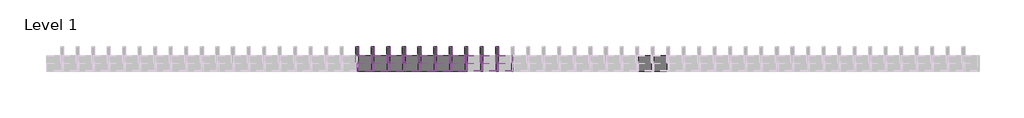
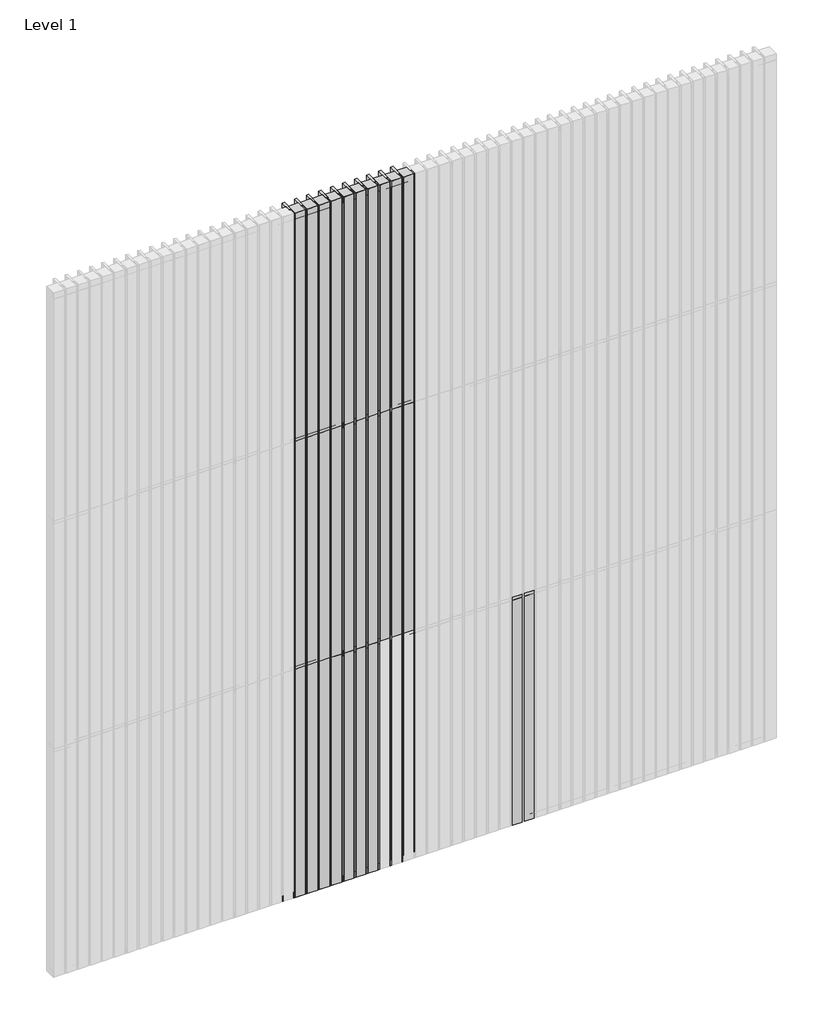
# One storey, part 3 of 6: 70 members, 59 plates.
"""IFC4 building model written with IfcOpenShell, lengths in millimetres."""

from ifc_helpers import new_model, si_unit, origin, place, context, project, spatial, transform, mapped, element, save
from components import rectangular_mullion_cddbc660, rectangular_mullion_a3e25429, rectangular_mullion_ae434dd9, rectangular_mullion_30cdfca6, empty_system_panel_empty_5411477d, empty_system_panel_empty_c50988b4, empty_system_panel_empty_3767e820

model = new_model("IFC4")

# Units and contexts
model_context = context("Model", 3, world=origin())
ifc_project = project(units=[si_unit("LENGTHUNIT", "METRE", prefix="MILLI")], contexts=[model_context])

# Site, building, storey
site = spatial("IfcSite", under=ifc_project)
building = spatial("IfcBuilding", under=site)
storey = spatial("IfcBuildingStorey", under=building, Name="Level 1", Elevation=0.0)

# Members
placement = place(None, origin())
rectangular_mullion_shape = rectangular_mullion_cddbc660(model_context)
element("IfcMember", 1, ObjectType="Rectangular Mullion : RSen_21_CWM_support profile 50x50 - left_gen_duco projects", at=placement, inside=storey, context=model_context, shape_type="MappedRepresentation", body=[
    mapped(rectangular_mullion_shape, transform((2900.0, 3000.0, 6000.0), x_axis=(0.0, 0.0, 1.0), y_axis=(0.0, 1.0, 0.0), z_axis=(-1.0, 0.0, 0.0))),
])
element("IfcMember", 2, ObjectType="Rectangular Mullion : RSen_21_CWM_support profile 50x50 - left_gen_duco projects", at=placement, inside=storey, context=model_context, shape_type="MappedRepresentation", body=[
    mapped(rectangular_mullion_shape, transform((2800.0, 3000.0, 6000.0), x_axis=(0.0, 0.0, 1.0), y_axis=(0.0, 1.0, 0.0), z_axis=(-1.0, 0.0, 0.0))),
])
element("IfcMember", 3, ObjectType="Rectangular Mullion : RSen_21_CWM_support profile 50x50 - left_gen_duco projects", at=placement, inside=storey, context=model_context, shape_type="MappedRepresentation", body=[
    mapped(rectangular_mullion_shape, transform((2700.0, 3000.0, 6000.0), x_axis=(0.0, 0.0, 1.0), y_axis=(0.0, 1.0, 0.0), z_axis=(-1.0, 0.0, 0.0))),
])
element("IfcMember", 4, ObjectType="Rectangular Mullion : RSen_21_CWM_support profile 50x50 - left_gen_duco projects", at=placement, inside=storey, context=model_context, shape_type="MappedRepresentation", body=[
    mapped(rectangular_mullion_shape, transform((2600.0, 3000.0, 6000.0), x_axis=(0.0, 0.0, 1.0), y_axis=(0.0, 1.0, 0.0), z_axis=(-1.0, 0.0, 0.0))),
])
element("IfcMember", 5, ObjectType="Rectangular Mullion : RSen_21_CWM_support profile 50x50 - left_gen_duco projects", at=placement, inside=storey, context=model_context, shape_type="MappedRepresentation", body=[
    mapped(rectangular_mullion_shape, transform((2500.0, 3000.0, 6000.0), x_axis=(0.0, 0.0, 1.0), y_axis=(0.0, 1.0, 0.0), z_axis=(-1.0, 0.0, 0.0))),
])
element("IfcMember", 6, ObjectType="Rectangular Mullion : RSen_21_CWM_support profile 50x50 - left_gen_duco projects", at=placement, inside=storey, context=model_context, shape_type="MappedRepresentation", body=[
    mapped(rectangular_mullion_shape, transform((2400.0, 3000.0, 6000.0), x_axis=(0.0, 0.0, 1.0), y_axis=(0.0, 1.0, 0.0), z_axis=(-1.0, 0.0, 0.0))),
])
element("IfcMember", 7, ObjectType="Rectangular Mullion : RSen_21_CWM_support profile 50x50 - left_gen_duco projects", at=placement, inside=storey, context=model_context, shape_type="MappedRepresentation", body=[
    mapped(rectangular_mullion_shape, transform((2300.0, 3000.0, 6000.0), x_axis=(0.0, 0.0, 1.0), y_axis=(0.0, 1.0, 0.0), z_axis=(-1.0, 0.0, 0.0))),
])
element("IfcMember", 8, ObjectType="Rectangular Mullion : RSen_21_CWM_support profile 50x50 - left_gen_duco projects", at=placement, inside=storey, context=model_context, shape_type="MappedRepresentation", body=[
    mapped(rectangular_mullion_shape, transform((2200.0, 3000.0, 6000.0), x_axis=(0.0, 0.0, 1.0), y_axis=(0.0, 1.0, 0.0), z_axis=(-1.0, 0.0, 0.0))),
])
element("IfcMember", 9, ObjectType="Rectangular Mullion : RSen_21_CWM_support profile 50x50 - left_gen_duco projects", at=placement, inside=storey, context=model_context, shape_type="MappedRepresentation", body=[
    mapped(rectangular_mullion_shape, transform((2100.0, 3000.0, 6000.0), x_axis=(0.0, 0.0, 1.0), y_axis=(0.0, 1.0, 0.0), z_axis=(-1.0, 0.0, 0.0))),
])
element("IfcMember", 10, ObjectType="Rectangular Mullion : RSen_21_CWM_support profile 50x50 - left_gen_duco projects", at=placement, inside=storey, context=model_context, shape_type="MappedRepresentation", body=[
    mapped(rectangular_mullion_shape, transform((2000.0, 3000.0, 6000.0), x_axis=(0.0, 0.0, 1.0), y_axis=(0.0, 1.0, 0.0), z_axis=(-1.0, 0.0, 0.0))),
])
rectangular_mullion_2_shape = rectangular_mullion_a3e25429(model_context)
element("IfcMember", 11, ObjectType="Rectangular Mullion : RSen_21_CWM_support profile 50x50 - right_gen_duco projects", at=placement, inside=storey, context=model_context, shape_type="MappedRepresentation", body=[
    mapped(rectangular_mullion_2_shape, transform((2900.0, 3000.0, 0.0), x_axis=(0.0, 0.0, -1.0), y_axis=(0.0, 1.0, 0.0), z_axis=(1.0, 0.0, 0.0))),
])
element("IfcMember", 12, ObjectType="Rectangular Mullion : RSen_21_CWM_support profile 50x50 - right_gen_duco projects", at=placement, inside=storey, context=model_context, shape_type="MappedRepresentation", body=[
    mapped(rectangular_mullion_2_shape, transform((2800.0, 3000.0, 0.0), x_axis=(0.0, 0.0, -1.0), y_axis=(0.0, 1.0, 0.0), z_axis=(1.0, 0.0, 0.0))),
])
element("IfcMember", 13, ObjectType="Rectangular Mullion : RSen_21_CWM_support profile 50x50 - right_gen_duco projects", at=placement, inside=storey, context=model_context, shape_type="MappedRepresentation", body=[
    mapped(rectangular_mullion_2_shape, transform((2700.0, 3000.0, 0.0), x_axis=(0.0, 0.0, -1.0), y_axis=(0.0, 1.0, 0.0), z_axis=(1.0, 0.0, 0.0))),
])
element("IfcMember", 14, ObjectType="Rectangular Mullion : RSen_21_CWM_support profile 50x50 - right_gen_duco projects", at=placement, inside=storey, context=model_context, shape_type="MappedRepresentation", body=[
    mapped(rectangular_mullion_2_shape, transform((2600.0, 3000.0, 0.0), x_axis=(0.0, 0.0, -1.0), y_axis=(0.0, 1.0, 0.0), z_axis=(1.0, 0.0, 0.0))),
])
element("IfcMember", 15, ObjectType="Rectangular Mullion : RSen_21_CWM_support profile 50x50 - right_gen_duco projects", at=placement, inside=storey, context=model_context, shape_type="MappedRepresentation", body=[
    mapped(rectangular_mullion_2_shape, transform((2500.0, 3000.0, 0.0), x_axis=(0.0, 0.0, -1.0), y_axis=(0.0, 1.0, 0.0), z_axis=(1.0, 0.0, 0.0))),
])
element("IfcMember", 16, ObjectType="Rectangular Mullion : RSen_21_CWM_support profile 50x50 - right_gen_duco projects", at=placement, inside=storey, context=model_context, shape_type="MappedRepresentation", body=[
    mapped(rectangular_mullion_2_shape, transform((2400.0, 3000.0, 0.0), x_axis=(0.0, 0.0, -1.0), y_axis=(0.0, 1.0, 0.0), z_axis=(1.0, 0.0, 0.0))),
])
element("IfcMember", 17, ObjectType="Rectangular Mullion : RSen_21_CWM_support profile 50x50 - right_gen_duco projects", at=placement, inside=storey, context=model_context, shape_type="MappedRepresentation", body=[
    mapped(rectangular_mullion_2_shape, transform((2300.0, 3000.0, 0.0), x_axis=(0.0, 0.0, -1.0), y_axis=(0.0, 1.0, 0.0), z_axis=(1.0, 0.0, 0.0))),
])
element("IfcMember", 18, ObjectType="Rectangular Mullion : RSen_21_CWM_support profile 50x50 - right_gen_duco projects", at=placement, inside=storey, context=model_context, shape_type="MappedRepresentation", body=[
    mapped(rectangular_mullion_2_shape, transform((2200.0, 3000.0, 0.0), x_axis=(0.0, 0.0, -1.0), y_axis=(0.0, 1.0, 0.0), z_axis=(1.0, 0.0, 0.0))),
])
element("IfcMember", 19, ObjectType="Rectangular Mullion : RSen_21_CWM_support profile 50x50 - right_gen_duco projects", at=placement, inside=storey, context=model_context, shape_type="MappedRepresentation", body=[
    mapped(rectangular_mullion_2_shape, transform((2100.0, 3000.0, 0.0), x_axis=(0.0, 0.0, -1.0), y_axis=(0.0, 1.0, 0.0), z_axis=(1.0, 0.0, 0.0))),
])
element("IfcMember", 20, ObjectType="Rectangular Mullion : RSen_21_CWM_support profile 50x50 - right_gen_duco projects", at=placement, inside=storey, context=model_context, shape_type="MappedRepresentation", body=[
    mapped(rectangular_mullion_2_shape, transform((2000.0, 3000.0, 0.0), x_axis=(0.0, 0.0, -1.0), y_axis=(0.0, 1.0, 0.0), z_axis=(1.0, 0.0, 0.0))),
])
rectangular_mullion_3_shape = rectangular_mullion_ae434dd9(model_context)
element("IfcMember", 21, ObjectType="Rectangular Mullion : RSen_21_CWM_support profile 50x50_gen_duco projects", at=placement, inside=storey, context=model_context, shape_type="MappedRepresentation", body=[
    mapped(rectangular_mullion_3_shape, transform((2900.0, 3000.0, 2000.0), x_axis=(0.0, 0.0, 1.0), y_axis=(0.0, 1.0, 0.0), z_axis=(-1.0, 0.0, 0.0))),
])
element("IfcMember", 22, ObjectType="Rectangular Mullion : RSen_21_CWM_support profile 50x50_gen_duco projects", at=placement, inside=storey, context=model_context, shape_type="MappedRepresentation", body=[
    mapped(rectangular_mullion_3_shape, transform((2800.0, 3000.0, 2000.0), x_axis=(0.0, 0.0, 1.0), y_axis=(0.0, 1.0, 0.0), z_axis=(-1.0, 0.0, 0.0))),
])
element("IfcMember", 23, ObjectType="Rectangular Mullion : RSen_21_CWM_support profile 50x50_gen_duco projects", at=placement, inside=storey, context=model_context, shape_type="MappedRepresentation", body=[
    mapped(rectangular_mullion_3_shape, transform((2700.0, 3000.0, 2000.0), x_axis=(0.0, 0.0, 1.0), y_axis=(0.0, 1.0, 0.0), z_axis=(-1.0, 0.0, 0.0))),
])
element("IfcMember", 24, ObjectType="Rectangular Mullion : RSen_21_CWM_support profile 50x50_gen_duco projects", at=placement, inside=storey, context=model_context, shape_type="MappedRepresentation", body=[
    mapped(rectangular_mullion_3_shape, transform((2600.0, 3000.0, 2000.0), x_axis=(0.0, 0.0, 1.0), y_axis=(0.0, 1.0, 0.0), z_axis=(-1.0, 0.0, 0.0))),
])
element("IfcMember", 25, ObjectType="Rectangular Mullion : RSen_21_CWM_support profile 50x50_gen_duco projects", at=placement, inside=storey, context=model_context, shape_type="MappedRepresentation", body=[
    mapped(rectangular_mullion_3_shape, transform((2500.0, 3000.0, 2000.0), x_axis=(0.0, 0.0, 1.0), y_axis=(0.0, 1.0, 0.0), z_axis=(-1.0, 0.0, 0.0))),
])
element("IfcMember", 26, ObjectType="Rectangular Mullion : RSen_21_CWM_support profile 50x50_gen_duco projects", at=placement, inside=storey, context=model_context, shape_type="MappedRepresentation", body=[
    mapped(rectangular_mullion_3_shape, transform((2400.0, 3000.0, 2000.0), x_axis=(0.0, 0.0, 1.0), y_axis=(0.0, 1.0, 0.0), z_axis=(-1.0, 0.0, 0.0))),
])
element("IfcMember", 27, ObjectType="Rectangular Mullion : RSen_21_CWM_support profile 50x50_gen_duco projects", at=placement, inside=storey, context=model_context, shape_type="MappedRepresentation", body=[
    mapped(rectangular_mullion_3_shape, transform((2300.0, 3000.0, 2000.0), x_axis=(0.0, 0.0, 1.0), y_axis=(0.0, 1.0, 0.0), z_axis=(-1.0, 0.0, 0.0))),
])
element("IfcMember", 28, ObjectType="Rectangular Mullion : RSen_21_CWM_support profile 50x50_gen_duco projects", at=placement, inside=storey, context=model_context, shape_type="MappedRepresentation", body=[
    mapped(rectangular_mullion_3_shape, transform((2200.0, 3000.0, 2000.0), x_axis=(0.0, 0.0, 1.0), y_axis=(0.0, 1.0, 0.0), z_axis=(-1.0, 0.0, 0.0))),
])
element("IfcMember", 29, ObjectType="Rectangular Mullion : RSen_21_CWM_support profile 50x50_gen_duco projects", at=placement, inside=storey, context=model_context, shape_type="MappedRepresentation", body=[
    mapped(rectangular_mullion_3_shape, transform((2100.0, 3000.0, 2000.0), x_axis=(0.0, 0.0, 1.0), y_axis=(0.0, 1.0, 0.0), z_axis=(-1.0, 0.0, 0.0))),
])
element("IfcMember", 30, ObjectType="Rectangular Mullion : RSen_21_CWM_support profile 50x50_gen_duco projects", at=placement, inside=storey, context=model_context, shape_type="MappedRepresentation", body=[
    mapped(rectangular_mullion_3_shape, transform((2000.0, 3000.0, 2000.0), x_axis=(0.0, 0.0, 1.0), y_axis=(0.0, 1.0, 0.0), z_axis=(-1.0, 0.0, 0.0))),
])
element("IfcMember", 31, ObjectType="Rectangular Mullion : RSen_21_CWM_support profile 50x50_gen_duco projects", at=placement, inside=storey, context=model_context, shape_type="MappedRepresentation", body=[
    mapped(rectangular_mullion_3_shape, transform((2900.0, 3000.0, 4000.0), x_axis=(0.0, 0.0, 1.0), y_axis=(0.0, 1.0, 0.0), z_axis=(-1.0, 0.0, 0.0))),
])
element("IfcMember", 32, ObjectType="Rectangular Mullion : RSen_21_CWM_support profile 50x50_gen_duco projects", at=placement, inside=storey, context=model_context, shape_type="MappedRepresentation", body=[
    mapped(rectangular_mullion_3_shape, transform((2800.0, 3000.0, 4000.0), x_axis=(0.0, 0.0, 1.0), y_axis=(0.0, 1.0, 0.0), z_axis=(-1.0, 0.0, 0.0))),
])
element("IfcMember", 33, ObjectType="Rectangular Mullion : RSen_21_CWM_support profile 50x50_gen_duco projects", at=placement, inside=storey, context=model_context, shape_type="MappedRepresentation", body=[
    mapped(rectangular_mullion_3_shape, transform((2700.0, 3000.0, 4000.0), x_axis=(0.0, 0.0, 1.0), y_axis=(0.0, 1.0, 0.0), z_axis=(-1.0, 0.0, 0.0))),
])
element("IfcMember", 34, ObjectType="Rectangular Mullion : RSen_21_CWM_support profile 50x50_gen_duco projects", at=placement, inside=storey, context=model_context, shape_type="MappedRepresentation", body=[
    mapped(rectangular_mullion_3_shape, transform((2600.0, 3000.0, 4000.0), x_axis=(0.0, 0.0, 1.0), y_axis=(0.0, 1.0, 0.0), z_axis=(-1.0, 0.0, 0.0))),
])
element("IfcMember", 35, ObjectType="Rectangular Mullion : RSen_21_CWM_support profile 50x50_gen_duco projects", at=placement, inside=storey, context=model_context, shape_type="MappedRepresentation", body=[
    mapped(rectangular_mullion_3_shape, transform((2500.0, 3000.0, 4000.0), x_axis=(0.0, 0.0, 1.0), y_axis=(0.0, 1.0, 0.0), z_axis=(-1.0, 0.0, 0.0))),
])
element("IfcMember", 36, ObjectType="Rectangular Mullion : RSen_21_CWM_support profile 50x50_gen_duco projects", at=placement, inside=storey, context=model_context, shape_type="MappedRepresentation", body=[
    mapped(rectangular_mullion_3_shape, transform((2400.0, 3000.0, 4000.0), x_axis=(0.0, 0.0, 1.0), y_axis=(0.0, 1.0, 0.0), z_axis=(-1.0, 0.0, 0.0))),
])
element("IfcMember", 37, ObjectType="Rectangular Mullion : RSen_21_CWM_support profile 50x50_gen_duco projects", at=placement, inside=storey, context=model_context, shape_type="MappedRepresentation", body=[
    mapped(rectangular_mullion_3_shape, transform((2300.0, 3000.0, 4000.0), x_axis=(0.0, 0.0, 1.0), y_axis=(0.0, 1.0, 0.0), z_axis=(-1.0, 0.0, 0.0))),
])
element("IfcMember", 38, ObjectType="Rectangular Mullion : RSen_21_CWM_support profile 50x50_gen_duco projects", at=placement, inside=storey, context=model_context, shape_type="MappedRepresentation", body=[
    mapped(rectangular_mullion_3_shape, transform((2200.0, 3000.0, 4000.0), x_axis=(0.0, 0.0, 1.0), y_axis=(0.0, 1.0, 0.0), z_axis=(-1.0, 0.0, 0.0))),
])
element("IfcMember", 39, ObjectType="Rectangular Mullion : RSen_21_CWM_support profile 50x50_gen_duco projects", at=placement, inside=storey, context=model_context, shape_type="MappedRepresentation", body=[
    mapped(rectangular_mullion_3_shape, transform((2100.0, 3000.0, 4000.0), x_axis=(0.0, 0.0, 1.0), y_axis=(0.0, 1.0, 0.0), z_axis=(-1.0, 0.0, 0.0))),
])
element("IfcMember", 40, ObjectType="Rectangular Mullion : RSen_21_CWM_support profile 50x50_gen_duco projects", at=placement, inside=storey, context=model_context, shape_type="MappedRepresentation", body=[
    mapped(rectangular_mullion_3_shape, transform((2000.0, 3000.0, 4000.0), x_axis=(0.0, 0.0, 1.0), y_axis=(0.0, 1.0, 0.0), z_axis=(-1.0, 0.0, 0.0))),
])
rectangular_mullion_4_shape = rectangular_mullion_30cdfca6(model_context)
element("IfcMember", 41, ObjectType="Rectangular Mullion : RSen_21_CWM_blade - cubic 100 - 0°_gen_duco projects", at=placement, inside=storey, context=model_context, shape_type="MappedRepresentation", body=[
    mapped(rectangular_mullion_4_shape, transform((2900.0, 3000.0, 0.0), x_axis=(-1.0, 0.0, 0.0), y_axis=(0.0, 1.0, 0.0), z_axis=(0.0, 0.0, -1.0))),
])
element("IfcMember", 42, ObjectType="Rectangular Mullion : RSen_21_CWM_blade - cubic 100 - 0°_gen_duco projects", at=placement, inside=storey, context=model_context, shape_type="MappedRepresentation", body=[
    mapped(rectangular_mullion_4_shape, transform((2800.0, 3000.0, 0.0), x_axis=(-1.0, 0.0, 0.0), y_axis=(0.0, 1.0, 0.0), z_axis=(0.0, 0.0, -1.0))),
])
element("IfcMember", 43, ObjectType="Rectangular Mullion : RSen_21_CWM_blade - cubic 100 - 0°_gen_duco projects", at=placement, inside=storey, context=model_context, shape_type="MappedRepresentation", body=[
    mapped(rectangular_mullion_4_shape, transform((2700.0, 3000.0, 0.0), x_axis=(-1.0, 0.0, 0.0), y_axis=(0.0, 1.0, 0.0), z_axis=(0.0, 0.0, -1.0))),
])
element("IfcMember", 44, ObjectType="Rectangular Mullion : RSen_21_CWM_blade - cubic 100 - 0°_gen_duco projects", at=placement, inside=storey, context=model_context, shape_type="MappedRepresentation", body=[
    mapped(rectangular_mullion_4_shape, transform((2600.0, 3000.0, 0.0), x_axis=(-1.0, 0.0, 0.0), y_axis=(0.0, 1.0, 0.0), z_axis=(0.0, 0.0, -1.0))),
])
element("IfcMember", 45, ObjectType="Rectangular Mullion : RSen_21_CWM_blade - cubic 100 - 0°_gen_duco projects", at=placement, inside=storey, context=model_context, shape_type="MappedRepresentation", body=[
    mapped(rectangular_mullion_4_shape, transform((2500.0, 3000.0, 0.0), x_axis=(-1.0, 0.0, 0.0), y_axis=(0.0, 1.0, 0.0), z_axis=(0.0, 0.0, -1.0))),
])
element("IfcMember", 46, ObjectType="Rectangular Mullion : RSen_21_CWM_blade - cubic 100 - 0°_gen_duco projects", at=placement, inside=storey, context=model_context, shape_type="MappedRepresentation", body=[
    mapped(rectangular_mullion_4_shape, transform((2400.0, 3000.0, 0.0), x_axis=(-1.0, 0.0, 0.0), y_axis=(0.0, 1.0, 0.0), z_axis=(0.0, 0.0, -1.0))),
])
element("IfcMember", 47, ObjectType="Rectangular Mullion : RSen_21_CWM_blade - cubic 100 - 0°_gen_duco projects", at=placement, inside=storey, context=model_context, shape_type="MappedRepresentation", body=[
    mapped(rectangular_mullion_4_shape, transform((2300.0, 3000.0, 0.0), x_axis=(-1.0, 0.0, 0.0), y_axis=(0.0, 1.0, 0.0), z_axis=(0.0, 0.0, -1.0))),
])
element("IfcMember", 48, ObjectType="Rectangular Mullion : RSen_21_CWM_blade - cubic 100 - 0°_gen_duco projects", at=placement, inside=storey, context=model_context, shape_type="MappedRepresentation", body=[
    mapped(rectangular_mullion_4_shape, transform((2200.0, 3000.0, 0.0), x_axis=(-1.0, 0.0, 0.0), y_axis=(0.0, 1.0, 0.0), z_axis=(0.0, 0.0, -1.0))),
])
element("IfcMember", 49, ObjectType="Rectangular Mullion : RSen_21_CWM_blade - cubic 100 - 0°_gen_duco projects", at=placement, inside=storey, context=model_context, shape_type="MappedRepresentation", body=[
    mapped(rectangular_mullion_4_shape, transform((2100.0, 3000.0, 0.0), x_axis=(-1.0, 0.0, 0.0), y_axis=(0.0, 1.0, 0.0), z_axis=(0.0, 0.0, -1.0))),
])
element("IfcMember", 50, ObjectType="Rectangular Mullion : RSen_21_CWM_blade - cubic 100 - 0°_gen_duco projects", at=placement, inside=storey, context=model_context, shape_type="MappedRepresentation", body=[
    mapped(rectangular_mullion_4_shape, transform((2000.0, 3000.0, 0.0), x_axis=(-1.0, 0.0, 0.0), y_axis=(0.0, 1.0, 0.0), z_axis=(0.0, 0.0, -1.0))),
])
element("IfcMember", 51, ObjectType="Rectangular Mullion : RSen_21_CWM_blade - cubic 100 - 0°_gen_duco projects", at=placement, inside=storey, context=model_context, shape_type="MappedRepresentation", body=[
    mapped(rectangular_mullion_4_shape, transform((2900.0, 3000.0, 2000.0), x_axis=(-1.0, 0.0, 0.0), y_axis=(0.0, 1.0, 0.0), z_axis=(0.0, 0.0, -1.0))),
])
element("IfcMember", 52, ObjectType="Rectangular Mullion : RSen_21_CWM_blade - cubic 100 - 0°_gen_duco projects", at=placement, inside=storey, context=model_context, shape_type="MappedRepresentation", body=[
    mapped(rectangular_mullion_4_shape, transform((2800.0, 3000.0, 2000.0), x_axis=(-1.0, 0.0, 0.0), y_axis=(0.0, 1.0, 0.0), z_axis=(0.0, 0.0, -1.0))),
])
element("IfcMember", 53, ObjectType="Rectangular Mullion : RSen_21_CWM_blade - cubic 100 - 0°_gen_duco projects", at=placement, inside=storey, context=model_context, shape_type="MappedRepresentation", body=[
    mapped(rectangular_mullion_4_shape, transform((2700.0, 3000.0, 2000.0), x_axis=(-1.0, 0.0, 0.0), y_axis=(0.0, 1.0, 0.0), z_axis=(0.0, 0.0, -1.0))),
])
element("IfcMember", 54, ObjectType="Rectangular Mullion : RSen_21_CWM_blade - cubic 100 - 0°_gen_duco projects", at=placement, inside=storey, context=model_context, shape_type="MappedRepresentation", body=[
    mapped(rectangular_mullion_4_shape, transform((2600.0, 3000.0, 2000.0), x_axis=(-1.0, 0.0, 0.0), y_axis=(0.0, 1.0, 0.0), z_axis=(0.0, 0.0, -1.0))),
])
element("IfcMember", 55, ObjectType="Rectangular Mullion : RSen_21_CWM_blade - cubic 100 - 0°_gen_duco projects", at=placement, inside=storey, context=model_context, shape_type="MappedRepresentation", body=[
    mapped(rectangular_mullion_4_shape, transform((2500.0, 3000.0, 2000.0), x_axis=(-1.0, 0.0, 0.0), y_axis=(0.0, 1.0, 0.0), z_axis=(0.0, 0.0, -1.0))),
])
element("IfcMember", 56, ObjectType="Rectangular Mullion : RSen_21_CWM_blade - cubic 100 - 0°_gen_duco projects", at=placement, inside=storey, context=model_context, shape_type="MappedRepresentation", body=[
    mapped(rectangular_mullion_4_shape, transform((2400.0, 3000.0, 2000.0), x_axis=(-1.0, 0.0, 0.0), y_axis=(0.0, 1.0, 0.0), z_axis=(0.0, 0.0, -1.0))),
])
element("IfcMember", 57, ObjectType="Rectangular Mullion : RSen_21_CWM_blade - cubic 100 - 0°_gen_duco projects", at=placement, inside=storey, context=model_context, shape_type="MappedRepresentation", body=[
    mapped(rectangular_mullion_4_shape, transform((2300.0, 3000.0, 2000.0), x_axis=(-1.0, 0.0, 0.0), y_axis=(0.0, 1.0, 0.0), z_axis=(0.0, 0.0, -1.0))),
])
element("IfcMember", 58, ObjectType="Rectangular Mullion : RSen_21_CWM_blade - cubic 100 - 0°_gen_duco projects", at=placement, inside=storey, context=model_context, shape_type="MappedRepresentation", body=[
    mapped(rectangular_mullion_4_shape, transform((2200.0, 3000.0, 2000.0), x_axis=(-1.0, 0.0, 0.0), y_axis=(0.0, 1.0, 0.0), z_axis=(0.0, 0.0, -1.0))),
])
element("IfcMember", 59, ObjectType="Rectangular Mullion : RSen_21_CWM_blade - cubic 100 - 0°_gen_duco projects", at=placement, inside=storey, context=model_context, shape_type="MappedRepresentation", body=[
    mapped(rectangular_mullion_4_shape, transform((2100.0, 3000.0, 2000.0), x_axis=(-1.0, 0.0, 0.0), y_axis=(0.0, 1.0, 0.0), z_axis=(0.0, 0.0, -1.0))),
])
element("IfcMember", 60, ObjectType="Rectangular Mullion : RSen_21_CWM_blade - cubic 100 - 0°_gen_duco projects", at=placement, inside=storey, context=model_context, shape_type="MappedRepresentation", body=[
    mapped(rectangular_mullion_4_shape, transform((2000.0, 3000.0, 2000.0), x_axis=(-1.0, 0.0, 0.0), y_axis=(0.0, 1.0, 0.0), z_axis=(0.0, 0.0, -1.0))),
])
element("IfcMember", 61, ObjectType="Rectangular Mullion : RSen_21_CWM_blade - cubic 100 - 0°_gen_duco projects", at=placement, inside=storey, context=model_context, shape_type="MappedRepresentation", body=[
    mapped(rectangular_mullion_4_shape, transform((2900.0, 3000.0, 4000.0), x_axis=(-1.0, 0.0, 0.0), y_axis=(0.0, 1.0, 0.0), z_axis=(0.0, 0.0, -1.0))),
])
element("IfcMember", 62, ObjectType="Rectangular Mullion : RSen_21_CWM_blade - cubic 100 - 0°_gen_duco projects", at=placement, inside=storey, context=model_context, shape_type="MappedRepresentation", body=[
    mapped(rectangular_mullion_4_shape, transform((2800.0, 3000.0, 4000.0), x_axis=(-1.0, 0.0, 0.0), y_axis=(0.0, 1.0, 0.0), z_axis=(0.0, 0.0, -1.0))),
])
element("IfcMember", 63, ObjectType="Rectangular Mullion : RSen_21_CWM_blade - cubic 100 - 0°_gen_duco projects", at=placement, inside=storey, context=model_context, shape_type="MappedRepresentation", body=[
    mapped(rectangular_mullion_4_shape, transform((2700.0, 3000.0, 4000.0), x_axis=(-1.0, 0.0, 0.0), y_axis=(0.0, 1.0, 0.0), z_axis=(0.0, 0.0, -1.0))),
])
element("IfcMember", 64, ObjectType="Rectangular Mullion : RSen_21_CWM_blade - cubic 100 - 0°_gen_duco projects", at=placement, inside=storey, context=model_context, shape_type="MappedRepresentation", body=[
    mapped(rectangular_mullion_4_shape, transform((2600.0, 3000.0, 4000.0), x_axis=(-1.0, 0.0, 0.0), y_axis=(0.0, 1.0, 0.0), z_axis=(0.0, 0.0, -1.0))),
])
element("IfcMember", 65, ObjectType="Rectangular Mullion : RSen_21_CWM_blade - cubic 100 - 0°_gen_duco projects", at=placement, inside=storey, context=model_context, shape_type="MappedRepresentation", body=[
    mapped(rectangular_mullion_4_shape, transform((2500.0, 3000.0, 4000.0), x_axis=(-1.0, 0.0, 0.0), y_axis=(0.0, 1.0, 0.0), z_axis=(0.0, 0.0, -1.0))),
])
element("IfcMember", 66, ObjectType="Rectangular Mullion : RSen_21_CWM_blade - cubic 100 - 0°_gen_duco projects", at=placement, inside=storey, context=model_context, shape_type="MappedRepresentation", body=[
    mapped(rectangular_mullion_4_shape, transform((2400.0, 3000.0, 4000.0), x_axis=(-1.0, 0.0, 0.0), y_axis=(0.0, 1.0, 0.0), z_axis=(0.0, 0.0, -1.0))),
])
element("IfcMember", 67, ObjectType="Rectangular Mullion : RSen_21_CWM_blade - cubic 100 - 0°_gen_duco projects", at=placement, inside=storey, context=model_context, shape_type="MappedRepresentation", body=[
    mapped(rectangular_mullion_4_shape, transform((2300.0, 3000.0, 4000.0), x_axis=(-1.0, 0.0, 0.0), y_axis=(0.0, 1.0, 0.0), z_axis=(0.0, 0.0, -1.0))),
])
element("IfcMember", 68, ObjectType="Rectangular Mullion : RSen_21_CWM_blade - cubic 100 - 0°_gen_duco projects", at=placement, inside=storey, context=model_context, shape_type="MappedRepresentation", body=[
    mapped(rectangular_mullion_4_shape, transform((2200.0, 3000.0, 4000.0), x_axis=(-1.0, 0.0, 0.0), y_axis=(0.0, 1.0, 0.0), z_axis=(0.0, 0.0, -1.0))),
])
element("IfcMember", 69, ObjectType="Rectangular Mullion : RSen_21_CWM_blade - cubic 100 - 0°_gen_duco projects", at=placement, inside=storey, context=model_context, shape_type="MappedRepresentation", body=[
    mapped(rectangular_mullion_4_shape, transform((2100.0, 3000.0, 4000.0), x_axis=(-1.0, 0.0, 0.0), y_axis=(0.0, 1.0, 0.0), z_axis=(0.0, 0.0, -1.0))),
])
element("IfcMember", 70, ObjectType="Rectangular Mullion : RSen_21_CWM_blade - cubic 100 - 0°_gen_duco projects", at=placement, inside=storey, context=model_context, shape_type="MappedRepresentation", body=[
    mapped(rectangular_mullion_4_shape, transform((2000.0, 3000.0, 4000.0), x_axis=(-1.0, 0.0, 0.0), y_axis=(0.0, 1.0, 0.0), z_axis=(0.0, 0.0, -1.0))),
])

# Plates
empty_system_panel_empty_shape = empty_system_panel_empty_5411477d(model_context)
element("IfcPlate", 71, ObjectType="Empty System Panel : Empty", at=placement, inside=storey, context=model_context, shape_type="MappedRepresentation", body=[
    mapped(empty_system_panel_empty_shape, transform((2950.0, 3000.0, 50.0), x_axis=(-1.0, 0.0, 0.0), y_axis=(0.0, -1.0, 0.0), z_axis=(0.0, 0.0, 1.0))),
])
element("IfcPlate", 72, ObjectType="Empty System Panel : Empty", at=placement, inside=storey, context=model_context, shape_type="MappedRepresentation", body=[
    mapped(empty_system_panel_empty_shape, transform((2850.0, 3000.0, 50.0), x_axis=(-1.0, 0.0, 0.0), y_axis=(0.0, -1.0, 0.0), z_axis=(0.0, 0.0, 1.0))),
])
element("IfcPlate", 73, ObjectType="Empty System Panel : Empty", at=placement, inside=storey, context=model_context, shape_type="MappedRepresentation", body=[
    mapped(empty_system_panel_empty_shape, transform((2750.0, 3000.0, 50.0), x_axis=(-1.0, 0.0, 0.0), y_axis=(0.0, -1.0, 0.0), z_axis=(0.0, 0.0, 1.0))),
])
element("IfcPlate", 74, ObjectType="Empty System Panel : Empty", at=placement, inside=storey, context=model_context, shape_type="MappedRepresentation", body=[
    mapped(empty_system_panel_empty_shape, transform((2650.0, 3000.0, 50.0), x_axis=(-1.0, 0.0, 0.0), y_axis=(0.0, -1.0, 0.0), z_axis=(0.0, 0.0, 1.0))),
])
element("IfcPlate", 75, ObjectType="Empty System Panel : Empty", at=placement, inside=storey, context=model_context, shape_type="MappedRepresentation", body=[
    mapped(empty_system_panel_empty_shape, transform((2550.0, 3000.0, 50.0), x_axis=(-1.0, 0.0, 0.0), y_axis=(0.0, -1.0, 0.0), z_axis=(0.0, 0.0, 1.0))),
])
element("IfcPlate", 76, ObjectType="Empty System Panel : Empty", at=placement, inside=storey, context=model_context, shape_type="MappedRepresentation", body=[
    mapped(empty_system_panel_empty_shape, transform((2450.0, 3000.0, 50.0), x_axis=(-1.0, 0.0, 0.0), y_axis=(0.0, -1.0, 0.0), z_axis=(0.0, 0.0, 1.0))),
])
element("IfcPlate", 77, ObjectType="Empty System Panel : Empty", at=placement, inside=storey, context=model_context, shape_type="MappedRepresentation", body=[
    mapped(empty_system_panel_empty_shape, transform((2350.0, 3000.0, 50.0), x_axis=(-1.0, 0.0, 0.0), y_axis=(0.0, -1.0, 0.0), z_axis=(0.0, 0.0, 1.0))),
])
element("IfcPlate", 78, ObjectType="Empty System Panel : Empty", at=placement, inside=storey, context=model_context, shape_type="MappedRepresentation", body=[
    mapped(empty_system_panel_empty_shape, transform((2250.0, 3000.0, 50.0), x_axis=(-1.0, 0.0, 0.0), y_axis=(0.0, -1.0, 0.0), z_axis=(0.0, 0.0, 1.0))),
])
element("IfcPlate", 79, ObjectType="Empty System Panel : Empty", at=placement, inside=storey, context=model_context, shape_type="MappedRepresentation", body=[
    mapped(empty_system_panel_empty_shape, transform((2150.0, 3000.0, 50.0), x_axis=(-1.0, 0.0, 0.0), y_axis=(0.0, -1.0, 0.0), z_axis=(0.0, 0.0, 1.0))),
])
element("IfcPlate", 80, ObjectType="Empty System Panel : Empty", at=placement, inside=storey, context=model_context, shape_type="MappedRepresentation", body=[
    mapped(empty_system_panel_empty_shape, transform((2050.0, 3000.0, 50.0), x_axis=(-1.0, 0.0, 0.0), y_axis=(0.0, -1.0, 0.0), z_axis=(0.0, 0.0, 1.0))),
])
element("IfcPlate", 81, ObjectType="Empty System Panel : Empty", at=placement, inside=storey, context=model_context, shape_type="MappedRepresentation", body=[
    mapped(empty_system_panel_empty_shape, transform((2950.0, 3000.0, 4025.0), x_axis=(-1.0, 0.0, 0.0), y_axis=(0.0, -1.0, 0.0), z_axis=(0.0, 0.0, 1.0))),
])
element("IfcPlate", 82, ObjectType="Empty System Panel : Empty", at=placement, inside=storey, context=model_context, shape_type="MappedRepresentation", body=[
    mapped(empty_system_panel_empty_shape, transform((2850.0, 3000.0, 4025.0), x_axis=(-1.0, 0.0, 0.0), y_axis=(0.0, -1.0, 0.0), z_axis=(0.0, 0.0, 1.0))),
])
element("IfcPlate", 83, ObjectType="Empty System Panel : Empty", at=placement, inside=storey, context=model_context, shape_type="MappedRepresentation", body=[
    mapped(empty_system_panel_empty_shape, transform((2750.0, 3000.0, 4025.0), x_axis=(-1.0, 0.0, 0.0), y_axis=(0.0, -1.0, 0.0), z_axis=(0.0, 0.0, 1.0))),
])
element("IfcPlate", 84, ObjectType="Empty System Panel : Empty", at=placement, inside=storey, context=model_context, shape_type="MappedRepresentation", body=[
    mapped(empty_system_panel_empty_shape, transform((2650.0, 3000.0, 4025.0), x_axis=(-1.0, 0.0, 0.0), y_axis=(0.0, -1.0, 0.0), z_axis=(0.0, 0.0, 1.0))),
])
element("IfcPlate", 85, ObjectType="Empty System Panel : Empty", at=placement, inside=storey, context=model_context, shape_type="MappedRepresentation", body=[
    mapped(empty_system_panel_empty_shape, transform((2550.0, 3000.0, 4025.0), x_axis=(-1.0, 0.0, 0.0), y_axis=(0.0, -1.0, 0.0), z_axis=(0.0, 0.0, 1.0))),
])
element("IfcPlate", 86, ObjectType="Empty System Panel : Empty", at=placement, inside=storey, context=model_context, shape_type="MappedRepresentation", body=[
    mapped(empty_system_panel_empty_shape, transform((2450.0, 3000.0, 4025.0), x_axis=(-1.0, 0.0, 0.0), y_axis=(0.0, -1.0, 0.0), z_axis=(0.0, 0.0, 1.0))),
])
element("IfcPlate", 87, ObjectType="Empty System Panel : Empty", at=placement, inside=storey, context=model_context, shape_type="MappedRepresentation", body=[
    mapped(empty_system_panel_empty_shape, transform((2350.0, 3000.0, 4025.0), x_axis=(-1.0, 0.0, 0.0), y_axis=(0.0, -1.0, 0.0), z_axis=(0.0, 0.0, 1.0))),
])
element("IfcPlate", 88, ObjectType="Empty System Panel : Empty", at=placement, inside=storey, context=model_context, shape_type="MappedRepresentation", body=[
    mapped(empty_system_panel_empty_shape, transform((2250.0, 3000.0, 4025.0), x_axis=(-1.0, 0.0, 0.0), y_axis=(0.0, -1.0, 0.0), z_axis=(0.0, 0.0, 1.0))),
])
element("IfcPlate", 89, ObjectType="Empty System Panel : Empty", at=placement, inside=storey, context=model_context, shape_type="MappedRepresentation", body=[
    mapped(empty_system_panel_empty_shape, transform((2150.0, 3000.0, 4025.0), x_axis=(-1.0, 0.0, 0.0), y_axis=(0.0, -1.0, 0.0), z_axis=(0.0, 0.0, 1.0))),
])
element("IfcPlate", 90, ObjectType="Empty System Panel : Empty", at=placement, inside=storey, context=model_context, shape_type="MappedRepresentation", body=[
    mapped(empty_system_panel_empty_shape, transform((2050.0, 3000.0, 4025.0), x_axis=(-1.0, 0.0, 0.0), y_axis=(0.0, -1.0, 0.0), z_axis=(0.0, 0.0, 1.0))),
])
empty_system_panel_empty_2_shape = empty_system_panel_empty_c50988b4(model_context)
element("IfcPlate", 91, ObjectType="Empty System Panel : Empty", at=placement, inside=storey, context=model_context, shape_type="MappedRepresentation", body=[
    mapped(empty_system_panel_empty_2_shape, transform((2950.0, 3000.0, 2025.0), x_axis=(-1.0, 0.0, 0.0), y_axis=(0.0, -1.0, 0.0), z_axis=(0.0, 0.0, 1.0))),
])
element("IfcPlate", 92, ObjectType="Empty System Panel : Empty", at=placement, inside=storey, context=model_context, shape_type="MappedRepresentation", body=[
    mapped(empty_system_panel_empty_2_shape, transform((2850.0, 3000.0, 2025.0), x_axis=(-1.0, 0.0, 0.0), y_axis=(0.0, -1.0, 0.0), z_axis=(0.0, 0.0, 1.0))),
])
element("IfcPlate", 93, ObjectType="Empty System Panel : Empty", at=placement, inside=storey, context=model_context, shape_type="MappedRepresentation", body=[
    mapped(empty_system_panel_empty_2_shape, transform((2750.0, 3000.0, 2025.0), x_axis=(-1.0, 0.0, 0.0), y_axis=(0.0, -1.0, 0.0), z_axis=(0.0, 0.0, 1.0))),
])
element("IfcPlate", 94, ObjectType="Empty System Panel : Empty", at=placement, inside=storey, context=model_context, shape_type="MappedRepresentation", body=[
    mapped(empty_system_panel_empty_2_shape, transform((2650.0, 3000.0, 2025.0), x_axis=(-1.0, 0.0, 0.0), y_axis=(0.0, -1.0, 0.0), z_axis=(0.0, 0.0, 1.0))),
])
element("IfcPlate", 95, ObjectType="Empty System Panel : Empty", at=placement, inside=storey, context=model_context, shape_type="MappedRepresentation", body=[
    mapped(empty_system_panel_empty_2_shape, transform((2550.0, 3000.0, 2025.0), x_axis=(-1.0, 0.0, 0.0), y_axis=(0.0, -1.0, 0.0), z_axis=(0.0, 0.0, 1.0))),
])
element("IfcPlate", 96, ObjectType="Empty System Panel : Empty", at=placement, inside=storey, context=model_context, shape_type="MappedRepresentation", body=[
    mapped(empty_system_panel_empty_2_shape, transform((2450.0, 3000.0, 2025.0), x_axis=(-1.0, 0.0, 0.0), y_axis=(0.0, -1.0, 0.0), z_axis=(0.0, 0.0, 1.0))),
])
element("IfcPlate", 97, ObjectType="Empty System Panel : Empty", at=placement, inside=storey, context=model_context, shape_type="MappedRepresentation", body=[
    mapped(empty_system_panel_empty_2_shape, transform((2350.0, 3000.0, 2025.0), x_axis=(-1.0, 0.0, 0.0), y_axis=(0.0, -1.0, 0.0), z_axis=(0.0, 0.0, 1.0))),
])
element("IfcPlate", 98, ObjectType="Empty System Panel : Empty", at=placement, inside=storey, context=model_context, shape_type="MappedRepresentation", body=[
    mapped(empty_system_panel_empty_2_shape, transform((2250.0, 3000.0, 2025.0), x_axis=(-1.0, 0.0, 0.0), y_axis=(0.0, -1.0, 0.0), z_axis=(0.0, 0.0, 1.0))),
])
element("IfcPlate", 99, ObjectType="Empty System Panel : Empty", at=placement, inside=storey, context=model_context, shape_type="MappedRepresentation", body=[
    mapped(empty_system_panel_empty_2_shape, transform((2150.0, 3000.0, 2025.0), x_axis=(-1.0, 0.0, 0.0), y_axis=(0.0, -1.0, 0.0), z_axis=(0.0, 0.0, 1.0))),
])
element("IfcPlate", 100, ObjectType="Empty System Panel : Empty", at=placement, inside=storey, context=model_context, shape_type="MappedRepresentation", body=[
    mapped(empty_system_panel_empty_2_shape, transform((2050.0, 3000.0, 2025.0), x_axis=(-1.0, 0.0, 0.0), y_axis=(0.0, -1.0, 0.0), z_axis=(0.0, 0.0, 1.0))),
])
empty_system_panel_empty_3_shape = empty_system_panel_empty_3767e820(model_context)
element("IfcPlate", 101, ObjectType="Empty System Panel : Empty", at=placement, inside=storey, context=model_context, shape_type="MappedRepresentation", body=[
    mapped(empty_system_panel_empty_3_shape, transform((3950.0, 3000.0, 0.0), x_axis=(-1.0, 0.0, 0.0), y_axis=(0.0, -1.0, 0.0), z_axis=(0.0, 0.0, 1.0))),
])
element("IfcPlate", 102, ObjectType="Empty System Panel : Empty", at=placement, inside=storey, context=model_context, shape_type="MappedRepresentation", body=[
    mapped(empty_system_panel_empty_3_shape, transform((3850.0, 3000.0, 0.0), x_axis=(-1.0, 0.0, 0.0), y_axis=(0.0, -1.0, 0.0), z_axis=(0.0, 0.0, 1.0))),
])
element("IfcPlate", 103, ObjectType="Empty System Panel : Empty", at=placement, inside=storey, context=model_context, shape_type="MappedRepresentation", body=[
    mapped(empty_system_panel_empty_3_shape, transform((2650.0, 3000.0, 0.0), x_axis=(-1.0, 0.0, 0.0), y_axis=(0.0, -1.0, 0.0), z_axis=(0.0, 0.0, 1.0))),
])
element("IfcPlate", 104, ObjectType="Empty System Panel : Empty", at=placement, inside=storey, context=model_context, shape_type="MappedRepresentation", body=[
    mapped(empty_system_panel_empty_3_shape, transform((2550.0, 3000.0, 0.0), x_axis=(-1.0, 0.0, 0.0), y_axis=(0.0, -1.0, 0.0), z_axis=(0.0, 0.0, 1.0))),
])
element("IfcPlate", 105, ObjectType="Empty System Panel : Empty", at=placement, inside=storey, context=model_context, shape_type="MappedRepresentation", body=[
    mapped(empty_system_panel_empty_3_shape, transform((2450.0, 3000.0, 0.0), x_axis=(-1.0, 0.0, 0.0), y_axis=(0.0, -1.0, 0.0), z_axis=(0.0, 0.0, 1.0))),
])
element("IfcPlate", 106, ObjectType="Empty System Panel : Empty", at=placement, inside=storey, context=model_context, shape_type="MappedRepresentation", body=[
    mapped(empty_system_panel_empty_3_shape, transform((2350.0, 3000.0, 0.0), x_axis=(-1.0, 0.0, 0.0), y_axis=(0.0, -1.0, 0.0), z_axis=(0.0, 0.0, 1.0))),
])
element("IfcPlate", 107, ObjectType="Empty System Panel : Empty", at=placement, inside=storey, context=model_context, shape_type="MappedRepresentation", body=[
    mapped(empty_system_panel_empty_3_shape, transform((2250.0, 3000.0, 0.0), x_axis=(-1.0, 0.0, 0.0), y_axis=(0.0, -1.0, 0.0), z_axis=(0.0, 0.0, 1.0))),
])
element("IfcPlate", 108, ObjectType="Empty System Panel : Empty", at=placement, inside=storey, context=model_context, shape_type="MappedRepresentation", body=[
    mapped(empty_system_panel_empty_3_shape, transform((2150.0, 3000.0, 0.0), x_axis=(-1.0, 0.0, 0.0), y_axis=(0.0, -1.0, 0.0), z_axis=(0.0, 0.0, 1.0))),
])
element("IfcPlate", 109, ObjectType="Empty System Panel : Empty", at=placement, inside=storey, context=model_context, shape_type="MappedRepresentation", body=[
    mapped(empty_system_panel_empty_3_shape, transform((2050.0, 3000.0, 0.0), x_axis=(-1.0, 0.0, 0.0), y_axis=(0.0, -1.0, 0.0), z_axis=(0.0, 0.0, 1.0))),
])
element("IfcPlate", 110, ObjectType="Empty System Panel : Empty", at=placement, inside=storey, context=model_context, shape_type="MappedRepresentation", body=[
    mapped(empty_system_panel_empty_3_shape, transform((2950.0, 3000.0, 2000.0), x_axis=(-1.0, 0.0, 0.0), y_axis=(0.0, -1.0, 0.0), z_axis=(0.0, 0.0, 1.0))),
])
element("IfcPlate", 111, ObjectType="Empty System Panel : Empty", at=placement, inside=storey, context=model_context, shape_type="MappedRepresentation", body=[
    mapped(empty_system_panel_empty_3_shape, transform((2850.0, 3000.0, 2000.0), x_axis=(-1.0, 0.0, 0.0), y_axis=(0.0, -1.0, 0.0), z_axis=(0.0, 0.0, 1.0))),
])
element("IfcPlate", 112, ObjectType="Empty System Panel : Empty", at=placement, inside=storey, context=model_context, shape_type="MappedRepresentation", body=[
    mapped(empty_system_panel_empty_3_shape, transform((2750.0, 3000.0, 2000.0), x_axis=(-1.0, 0.0, 0.0), y_axis=(0.0, -1.0, 0.0), z_axis=(0.0, 0.0, 1.0))),
])
element("IfcPlate", 113, ObjectType="Empty System Panel : Empty", at=placement, inside=storey, context=model_context, shape_type="MappedRepresentation", body=[
    mapped(empty_system_panel_empty_3_shape, transform((2650.0, 3000.0, 2000.0), x_axis=(-1.0, 0.0, 0.0), y_axis=(0.0, -1.0, 0.0), z_axis=(0.0, 0.0, 1.0))),
])
element("IfcPlate", 114, ObjectType="Empty System Panel : Empty", at=placement, inside=storey, context=model_context, shape_type="MappedRepresentation", body=[
    mapped(empty_system_panel_empty_3_shape, transform((2550.0, 3000.0, 2000.0), x_axis=(-1.0, 0.0, 0.0), y_axis=(0.0, -1.0, 0.0), z_axis=(0.0, 0.0, 1.0))),
])
element("IfcPlate", 115, ObjectType="Empty System Panel : Empty", at=placement, inside=storey, context=model_context, shape_type="MappedRepresentation", body=[
    mapped(empty_system_panel_empty_3_shape, transform((2450.0, 3000.0, 2000.0), x_axis=(-1.0, 0.0, 0.0), y_axis=(0.0, -1.0, 0.0), z_axis=(0.0, 0.0, 1.0))),
])
element("IfcPlate", 116, ObjectType="Empty System Panel : Empty", at=placement, inside=storey, context=model_context, shape_type="MappedRepresentation", body=[
    mapped(empty_system_panel_empty_3_shape, transform((2350.0, 3000.0, 2000.0), x_axis=(-1.0, 0.0, 0.0), y_axis=(0.0, -1.0, 0.0), z_axis=(0.0, 0.0, 1.0))),
])
element("IfcPlate", 117, ObjectType="Empty System Panel : Empty", at=placement, inside=storey, context=model_context, shape_type="MappedRepresentation", body=[
    mapped(empty_system_panel_empty_3_shape, transform((2250.0, 3000.0, 2000.0), x_axis=(-1.0, 0.0, 0.0), y_axis=(0.0, -1.0, 0.0), z_axis=(0.0, 0.0, 1.0))),
])
element("IfcPlate", 118, ObjectType="Empty System Panel : Empty", at=placement, inside=storey, context=model_context, shape_type="MappedRepresentation", body=[
    mapped(empty_system_panel_empty_3_shape, transform((2150.0, 3000.0, 2000.0), x_axis=(-1.0, 0.0, 0.0), y_axis=(0.0, -1.0, 0.0), z_axis=(0.0, 0.0, 1.0))),
])
element("IfcPlate", 119, ObjectType="Empty System Panel : Empty", at=placement, inside=storey, context=model_context, shape_type="MappedRepresentation", body=[
    mapped(empty_system_panel_empty_3_shape, transform((2050.0, 3000.0, 2000.0), x_axis=(-1.0, 0.0, 0.0), y_axis=(0.0, -1.0, 0.0), z_axis=(0.0, 0.0, 1.0))),
])
element("IfcPlate", 120, ObjectType="Empty System Panel : Empty", at=placement, inside=storey, context=model_context, shape_type="MappedRepresentation", body=[
    mapped(empty_system_panel_empty_3_shape, transform((2950.0, 3000.0, 4000.0), x_axis=(-1.0, 0.0, 0.0), y_axis=(0.0, -1.0, 0.0), z_axis=(0.0, 0.0, 1.0))),
])
element("IfcPlate", 121, ObjectType="Empty System Panel : Empty", at=placement, inside=storey, context=model_context, shape_type="MappedRepresentation", body=[
    mapped(empty_system_panel_empty_3_shape, transform((2850.0, 3000.0, 4000.0), x_axis=(-1.0, 0.0, 0.0), y_axis=(0.0, -1.0, 0.0), z_axis=(0.0, 0.0, 1.0))),
])
element("IfcPlate", 122, ObjectType="Empty System Panel : Empty", at=placement, inside=storey, context=model_context, shape_type="MappedRepresentation", body=[
    mapped(empty_system_panel_empty_3_shape, transform((2750.0, 3000.0, 4000.0), x_axis=(-1.0, 0.0, 0.0), y_axis=(0.0, -1.0, 0.0), z_axis=(0.0, 0.0, 1.0))),
])
element("IfcPlate", 123, ObjectType="Empty System Panel : Empty", at=placement, inside=storey, context=model_context, shape_type="MappedRepresentation", body=[
    mapped(empty_system_panel_empty_3_shape, transform((2650.0, 3000.0, 4000.0), x_axis=(-1.0, 0.0, 0.0), y_axis=(0.0, -1.0, 0.0), z_axis=(0.0, 0.0, 1.0))),
])
element("IfcPlate", 124, ObjectType="Empty System Panel : Empty", at=placement, inside=storey, context=model_context, shape_type="MappedRepresentation", body=[
    mapped(empty_system_panel_empty_3_shape, transform((2550.0, 3000.0, 4000.0), x_axis=(-1.0, 0.0, 0.0), y_axis=(0.0, -1.0, 0.0), z_axis=(0.0, 0.0, 1.0))),
])
element("IfcPlate", 125, ObjectType="Empty System Panel : Empty", at=placement, inside=storey, context=model_context, shape_type="MappedRepresentation", body=[
    mapped(empty_system_panel_empty_3_shape, transform((2450.0, 3000.0, 4000.0), x_axis=(-1.0, 0.0, 0.0), y_axis=(0.0, -1.0, 0.0), z_axis=(0.0, 0.0, 1.0))),
])
element("IfcPlate", 126, ObjectType="Empty System Panel : Empty", at=placement, inside=storey, context=model_context, shape_type="MappedRepresentation", body=[
    mapped(empty_system_panel_empty_3_shape, transform((2350.0, 3000.0, 4000.0), x_axis=(-1.0, 0.0, 0.0), y_axis=(0.0, -1.0, 0.0), z_axis=(0.0, 0.0, 1.0))),
])
element("IfcPlate", 127, ObjectType="Empty System Panel : Empty", at=placement, inside=storey, context=model_context, shape_type="MappedRepresentation", body=[
    mapped(empty_system_panel_empty_3_shape, transform((2250.0, 3000.0, 4000.0), x_axis=(-1.0, 0.0, 0.0), y_axis=(0.0, -1.0, 0.0), z_axis=(0.0, 0.0, 1.0))),
])
element("IfcPlate", 128, ObjectType="Empty System Panel : Empty", at=placement, inside=storey, context=model_context, shape_type="MappedRepresentation", body=[
    mapped(empty_system_panel_empty_3_shape, transform((2150.0, 3000.0, 4000.0), x_axis=(-1.0, 0.0, 0.0), y_axis=(0.0, -1.0, 0.0), z_axis=(0.0, 0.0, 1.0))),
])
element("IfcPlate", 129, ObjectType="Empty System Panel : Empty", at=placement, inside=storey, context=model_context, shape_type="MappedRepresentation", body=[
    mapped(empty_system_panel_empty_3_shape, transform((2050.0, 3000.0, 4000.0), x_axis=(-1.0, 0.0, 0.0), y_axis=(0.0, -1.0, 0.0), z_axis=(0.0, 0.0, 1.0))),
])

save(model, "model.ifc")
